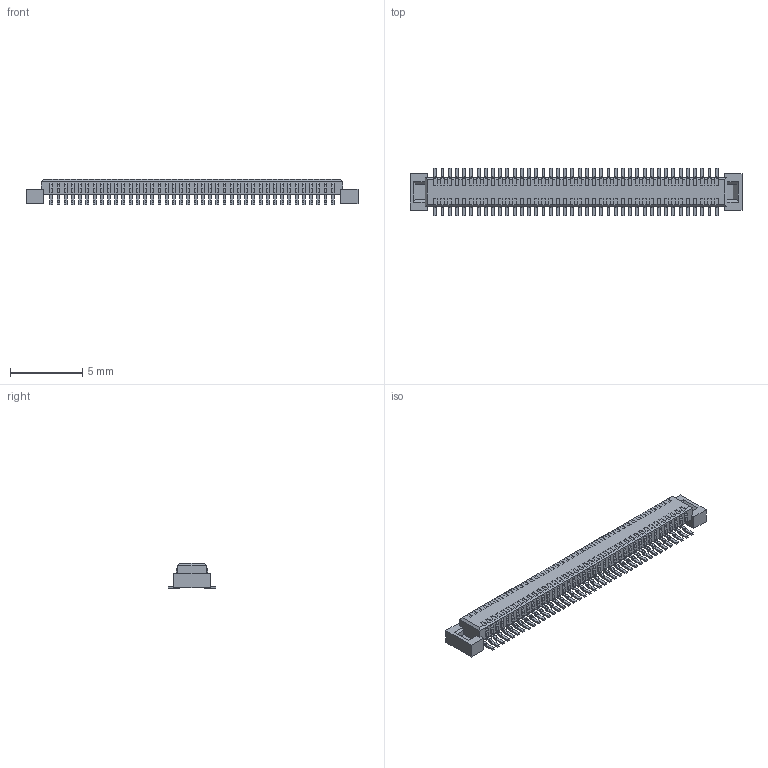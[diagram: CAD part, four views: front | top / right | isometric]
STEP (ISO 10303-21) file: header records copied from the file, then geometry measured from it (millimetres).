
FILE_DESCRIPTION (( 'STEP AP214' ), '1' );
FILE_NAME ('axk6f80547y.stp', '2007-10-04T01:52:30', ( '' ), ( 'PanasonicCorporation' ), '', '', '' );
FILE_SCHEMA (( 'AUTOMOTIVE_DESIGN' ));
Length unit declared in the file: millimetre
Products named in the file (1): axk6f80547y
Bounding box: 23 x 3.3 x 1.75 mm (x, y, z)
Volume: 52 mm3; surface area: 251.3 mm2
Topology: 1 solids, 1 shells, 2196 faces, 6098 edges, 4064 vertices
Faces by surface type: plane 1636, cylinder 560
Entity records: 69853 total; most frequent: CARTESIAN_POINT 12359, ORIENTED_EDGE 12196, DIRECTION 11612, EDGE_CURVE 6098, LINE 4978, VECTOR 4978, VERTEX_POINT 4064, AXIS2_PLACEMENT_3D 3317
